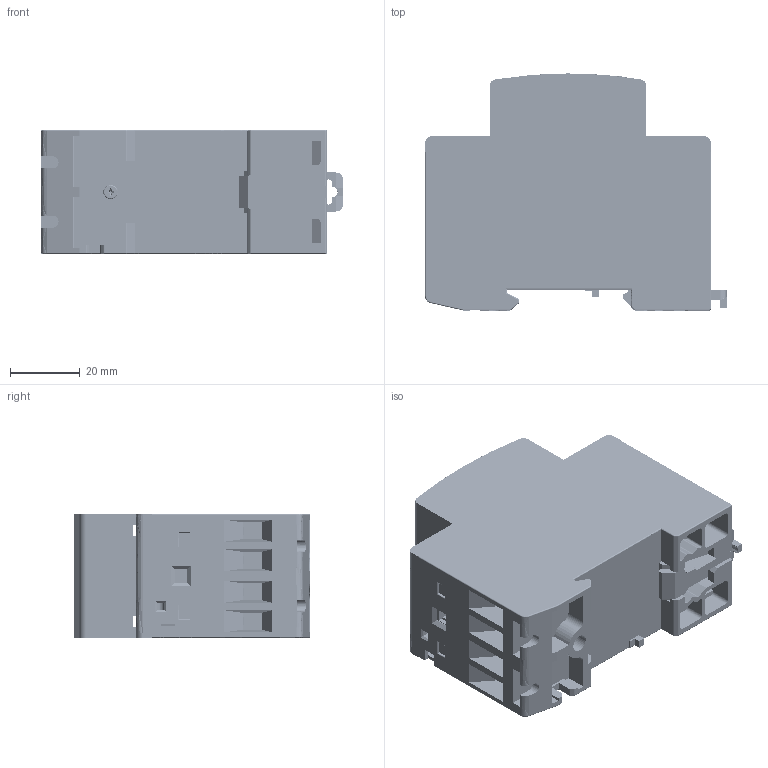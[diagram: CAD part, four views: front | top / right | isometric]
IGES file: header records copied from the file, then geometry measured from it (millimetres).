
Start section: SolidWorks IGES file using analytic representation for surfaces
Bounding box: 86.6 x 68 x 35.4 mm (x, y, z)
Surface area: 76911.6 mm2 (no closed solid volume)
Topology: 0 solids, 0 shells, 3660 faces, 36202 edges, 36196 vertices
Faces by surface type: bspline 2790, revolution 870
